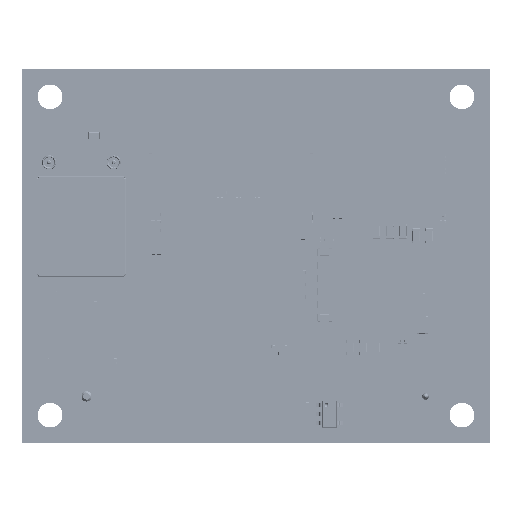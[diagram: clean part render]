
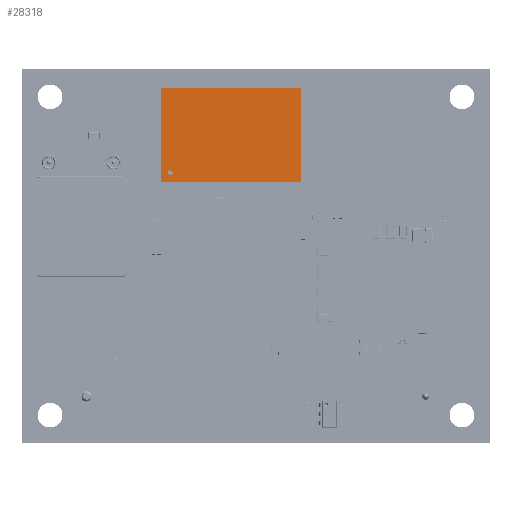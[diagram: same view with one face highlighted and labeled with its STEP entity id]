
A CAD part, top view. The second image highlights one B-rep face of the part: STEP entity #28318.
In plain terms, the highlighted planar face has unit normal (0, 0, 1).
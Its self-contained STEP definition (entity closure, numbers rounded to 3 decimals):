
#28318=ADVANCED_FACE('0:1878',(#72048,#72049),#72050,.T.);
#72048=FACE_OUTER_BOUND('',#139282,.T.);
#72049=FACE_BOUND('',#139283,.T.);
#72050=PLANE('',#139284);
#139282=EDGE_LOOP('',(#224550,#224551,#224552,#224553));
#139283=EDGE_LOOP('',(#224554,#224555));
#139284=AXIS2_PLACEMENT_3D('',#224556,#224557,#224558);
#224550=ORIENTED_EDGE('',*,*,#391683,.F.);
#224551=ORIENTED_EDGE('',*,*,#391684,.F.);
#224552=ORIENTED_EDGE('',*,*,#391685,.F.);
#224553=ORIENTED_EDGE('',*,*,#391686,.F.);
#224554=ORIENTED_EDGE('',*,*,#391681,.F.);
#224555=ORIENTED_EDGE('',*,*,#391676,.F.);
#224556=CARTESIAN_POINT('',(22.35,32.9,1.0));
#224557=DIRECTION('',(0.0,-0.0,1.0));
#224558=DIRECTION('',(0.,1.0,0.0));
#391676=EDGE_CURVE('0:1927',#509768,#509771,#509772,.T.);
#391681=EDGE_CURVE('0:1927',#509771,#509768,#509778,.T.);
#391683=EDGE_CURVE('0:1242',#509780,#509781,#509782,.T.);
#391684=EDGE_CURVE('0:1245',#509783,#509780,#509784,.T.);
#391685=EDGE_CURVE('0:1248',#509785,#509783,#509786,.T.);
#391686=EDGE_CURVE('0:1251',#509781,#509785,#509787,.T.);
#509768=VERTEX_POINT('',#609523);
#509771=VERTEX_POINT('',#609527);
#509772=CIRCLE('',#609528,0.25);
#509778=CIRCLE('',#609535,0.25);
#509780=VERTEX_POINT('',#609537);
#509781=VERTEX_POINT('',#609538);
#509782=LINE('',#609539,#609540);
#509783=VERTEX_POINT('',#609541);
#509784=LINE('',#609542,#609543);
#509785=VERTEX_POINT('',#609544);
#509786=LINE('',#609545,#609546);
#509787=LINE('',#609547,#609548);
#609523=CARTESIAN_POINT('',(15.85,28.65,1.0));
#609527=CARTESIAN_POINT('',(15.85,29.15,1.0));
#609528=AXIS2_PLACEMENT_3D('',#753065,#753066,#753067);
#609535=AXIS2_PLACEMENT_3D('',#753075,#753076,#753077);
#609537=CARTESIAN_POINT('',(14.85,37.9,1.0));
#609538=CARTESIAN_POINT('',(29.85,37.9,1.0));
#609539=CARTESIAN_POINT('',(29.85,37.9,1.0));
#609540=VECTOR('',#753078,1000.0);
#609541=CARTESIAN_POINT('',(14.85,27.9,1.0));
#609542=CARTESIAN_POINT('',(14.85,37.9,1.0));
#609543=VECTOR('',#753079,1000.0);
#609544=CARTESIAN_POINT('',(29.85,27.9,1.0));
#609545=CARTESIAN_POINT('',(14.85,27.9,1.0));
#609546=VECTOR('',#753080,1000.0);
#609547=CARTESIAN_POINT('',(29.85,27.9,1.0));
#609548=VECTOR('',#753081,1000.0);
#753065=CARTESIAN_POINT('',(15.85,28.9,1.0));
#753066=DIRECTION('',(0.0,-0.0,1.0));
#753067=DIRECTION('',(0.,1.0,0.0));
#753075=CARTESIAN_POINT('',(15.85,28.9,1.0));
#753076=DIRECTION('',(0.0,-0.0,1.0));
#753077=DIRECTION('',(0.,1.0,0.0));
#753078=DIRECTION('',(1.0,0.,0.0));
#753079=DIRECTION('',(0.,1.0,0.0));
#753080=DIRECTION('',(-1.0,0.,0.0));
#753081=DIRECTION('',(0.,-1.0,0.0));
